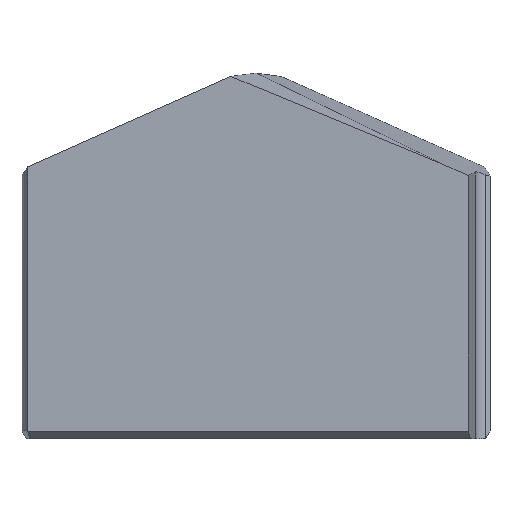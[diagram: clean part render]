
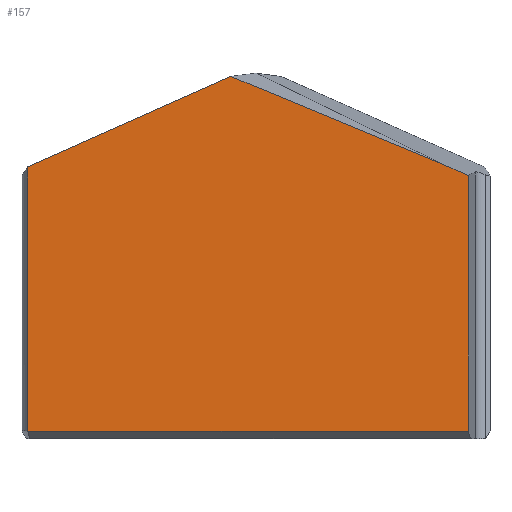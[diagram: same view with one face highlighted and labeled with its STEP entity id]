
A CAD part, top view. The second image highlights one B-rep face of the part: STEP entity #157.
In plain terms, the highlighted planar face has unit normal (0, 0, 1).
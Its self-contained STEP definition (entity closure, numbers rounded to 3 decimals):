
#10 = CARTESIAN_POINT ( 'NONE',  ( -8.906, 0.296, 4. ) ) ;
#12 = DIRECTION ( 'NONE',  ( 1., 0., 0. ) ) ;
#17 = LINE ( 'NONE', #84, #190 ) ;
#20 = VERTEX_POINT ( 'NONE', #232 ) ;
#36 = CARTESIAN_POINT ( 'NONE',  ( -0.977, 14.125, 4. ) ) ;
#41 = LINE ( 'NONE', #334, #511 ) ;
#42 = VERTEX_POINT ( 'NONE', #277 ) ;
#44 = ORIENTED_EDGE ( 'NONE', *, *, #83, .T. ) ;
#46 = LINE ( 'NONE', #384, #67 ) ;
#61 = VERTEX_POINT ( 'NONE', #590 ) ;
#63 = VERTEX_POINT ( 'NONE', #192 ) ;
#67 = VECTOR ( 'NONE', #495, 1000. ) ;
#75 = B_SPLINE_CURVE_WITH_KNOTS ( 'NONE', 3,
 ( #501, #10, #158, #203 ),
 .UNSPECIFIED., .F., .F.,
 ( 4, 4 ),
 ( 0., 0. ),
 .UNSPECIFIED. ) ;
#77 = VECTOR ( 'NONE', #101, 1000. ) ;
#83 = EDGE_CURVE ( 'NONE', #20, #42, #46, .T. ) ;
#84 = CARTESIAN_POINT ( 'NONE',  ( 4.852, 11.709, 4. ) ) ;
#101 = DIRECTION ( 'NONE',  ( -0.914, 0.407, 0. ) ) ;
#107 = CARTESIAN_POINT ( 'NONE',  ( -8.902, 0.289, 4. ) ) ;
#131 = ORIENTED_EDGE ( 'NONE', *, *, #132, .T. ) ;
#132 = EDGE_CURVE ( 'NONE', #195, #360, #17, .T. ) ;
#145 = DIRECTION ( 'NONE',  ( -0.924, 0.383, 0. ) ) ;
#151 = ORIENTED_EDGE ( 'NONE', *, *, #410, .F. ) ;
#157 = ADVANCED_FACE ( 'NONE', ( #270 ), #393, .T. ) ;
#158 = CARTESIAN_POINT ( 'NONE',  ( -8.904, 0.292, 4. ) ) ;
#162 = ORIENTED_EDGE ( 'NONE', *, *, #263, .T. ) ;
#165 = EDGE_CURVE ( 'NONE', #61, #564, #75, .T. ) ;
#190 = VECTOR ( 'NONE', #145, 1000. ) ;
#192 = CARTESIAN_POINT ( 'NONE',  ( -8.908, 10.594, 4. ) ) ;
#195 = VERTEX_POINT ( 'NONE', #560 ) ;
#203 = CARTESIAN_POINT ( 'NONE',  ( -8.902, 0.289, 4. ) ) ;
#208 = VECTOR ( 'NONE', #443, 1000. ) ;
#209 = AXIS2_PLACEMENT_3D ( 'NONE', #598, #340, #12 ) ;
#232 = CARTESIAN_POINT ( 'NONE',  ( 8.28, 0.289, 4. ) ) ;
#263 = EDGE_CURVE ( 'NONE', #360, #63, #523, .T. ) ;
#264 = CARTESIAN_POINT ( 'NONE',  ( 0., 14.56, 4. ) ) ;
#270 = FACE_OUTER_BOUND ( 'NONE', #568, .T. ) ;
#277 = CARTESIAN_POINT ( 'NONE',  ( 8.28, 10.258, 4. ) ) ;
#313 = ORIENTED_EDGE ( 'NONE', *, *, #165, .T. ) ;
#327 = DIRECTION ( 'NONE',  ( 1., 0., 0. ) ) ;
#334 = CARTESIAN_POINT ( 'NONE',  ( 8.731, 0.289, 4. ) ) ;
#340 = DIRECTION ( 'NONE',  ( 0., 0., 1. ) ) ;
#342 = LINE ( 'NONE', #448, #77 ) ;
#360 = VERTEX_POINT ( 'NONE', #36 ) ;
#384 = CARTESIAN_POINT ( 'NONE',  ( 8.28, 0., 4. ) ) ;
#393 = PLANE ( 'NONE',  #209 ) ;
#410 = EDGE_CURVE ( 'NONE', #61, #63, #460, .T. ) ;
#440 = CARTESIAN_POINT ( 'NONE',  ( -8.908, 0., 4. ) ) ;
#443 = DIRECTION ( 'NONE',  ( 0., 1., 0. ) ) ;
#448 = CARTESIAN_POINT ( 'NONE',  ( 5.181, 11.638, 4. ) ) ;
#449 = EDGE_CURVE ( 'NONE', #42, #195, #342, .T. ) ;
#460 = LINE ( 'NONE', #440, #208 ) ;
#469 = VECTOR ( 'NONE', #576, 1000. ) ;
#470 = ORIENTED_EDGE ( 'NONE', *, *, #449, .T. ) ;
#495 = DIRECTION ( 'NONE',  ( 0., 1., 0. ) ) ;
#501 = CARTESIAN_POINT ( 'NONE',  ( -8.908, 0.3, 4. ) ) ;
#511 = VECTOR ( 'NONE', #327, 1000. ) ;
#521 = EDGE_CURVE ( 'NONE', #564, #20, #41, .T. ) ;
#523 = LINE ( 'NONE', #264, #469 ) ;
#560 = CARTESIAN_POINT ( 'NONE',  ( 7.286, 10.701, 4. ) ) ;
#564 = VERTEX_POINT ( 'NONE', #107 ) ;
#568 = EDGE_LOOP ( 'NONE', ( #470, #131, #162, #151, #313, #581, #44 ) ) ;
#576 = DIRECTION ( 'NONE',  ( -0.914, -0.407, 0. ) ) ;
#581 = ORIENTED_EDGE ( 'NONE', *, *, #521, .T. ) ;
#590 = CARTESIAN_POINT ( 'NONE',  ( -8.908, 0.3, 4. ) ) ;
#598 = CARTESIAN_POINT ( 'NONE',  ( 0., 0., 4. ) ) ;
